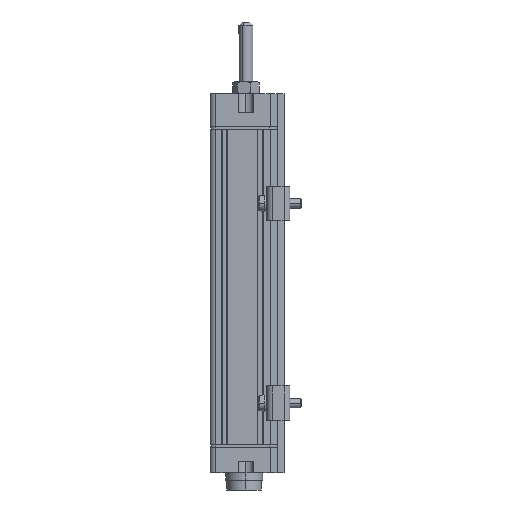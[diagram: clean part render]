
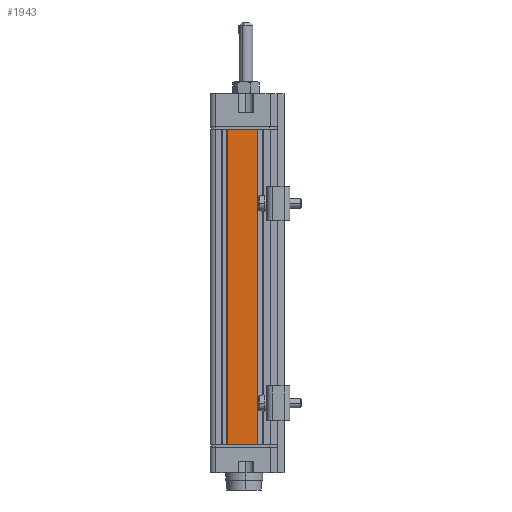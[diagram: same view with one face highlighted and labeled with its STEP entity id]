
A CAD part, left-side view. The second image highlights one B-rep face of the part: STEP entity #1943.
In plain terms, the highlighted planar face has unit normal (-1, 0, 0).
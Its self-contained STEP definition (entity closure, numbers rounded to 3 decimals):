
#1943=ADVANCED_FACE('',(#3992),#3993,.T.);
#3992=FACE_OUTER_BOUND('',#6212,.T.);
#3993=PLANE('',#6213);
#6212=EDGE_LOOP('',(#11987,#11988,#11989,#11990));
#6213=AXIS2_PLACEMENT_3D('',#11991,#11992,#11993);
#11987=ORIENTED_EDGE('',*,*,#14760,.F.);
#11988=ORIENTED_EDGE('',*,*,#14940,.F.);
#11989=ORIENTED_EDGE('',*,*,#14563,.T.);
#11990=ORIENTED_EDGE('',*,*,#14938,.T.);
#11991=CARTESIAN_POINT('',(0.0,11.6,-136.5));
#11992=DIRECTION('',(-1.0,0.0,0.0));
#11993=DIRECTION('',(0.0,0.0,1.0));
#14563=EDGE_CURVE('',#17846,#17844,#17847,.T.);
#14760=EDGE_CURVE('',#18155,#18157,#18158,.T.);
#14938=EDGE_CURVE('',#17844,#18157,#18398,.T.);
#14940=EDGE_CURVE('',#17846,#18155,#18400,.T.);
#17844=VERTEX_POINT('',#22656);
#17846=VERTEX_POINT('',#22659);
#17847=LINE('',#22660,#22661);
#18155=VERTEX_POINT('',#23098);
#18157=VERTEX_POINT('',#23101);
#18158=LINE('',#23102,#23103);
#18398=LINE('',#23451,#23452);
#18400=LINE('',#23454,#23455);
#22656=CARTESIAN_POINT('',(0.0,11.6,-136.5));
#22659=CARTESIAN_POINT('',(0.0,24.4,-136.5));
#22660=CARTESIAN_POINT('',(0.0,24.4,-136.5));
#22661=VECTOR('',#26104,12.8);
#23098=CARTESIAN_POINT('',(0.0,24.4,0.0));
#23101=CARTESIAN_POINT('',(0.0,11.6,0.0));
#23102=CARTESIAN_POINT('',(0.0,24.4,0.0));
#23103=VECTOR('',#26319,12.8);
#23451=CARTESIAN_POINT('',(0.0,11.6,-136.5));
#23452=VECTOR('',#26473,136.5);
#23454=CARTESIAN_POINT('',(0.0,24.4,-136.5));
#23455=VECTOR('',#26474,136.5);
#26104=DIRECTION('',(0.0,-1.0,0.0));
#26319=DIRECTION('',(0.0,-1.0,0.0));
#26473=DIRECTION('',(0.0,0.0,1.0));
#26474=DIRECTION('',(0.0,0.0,1.0));
